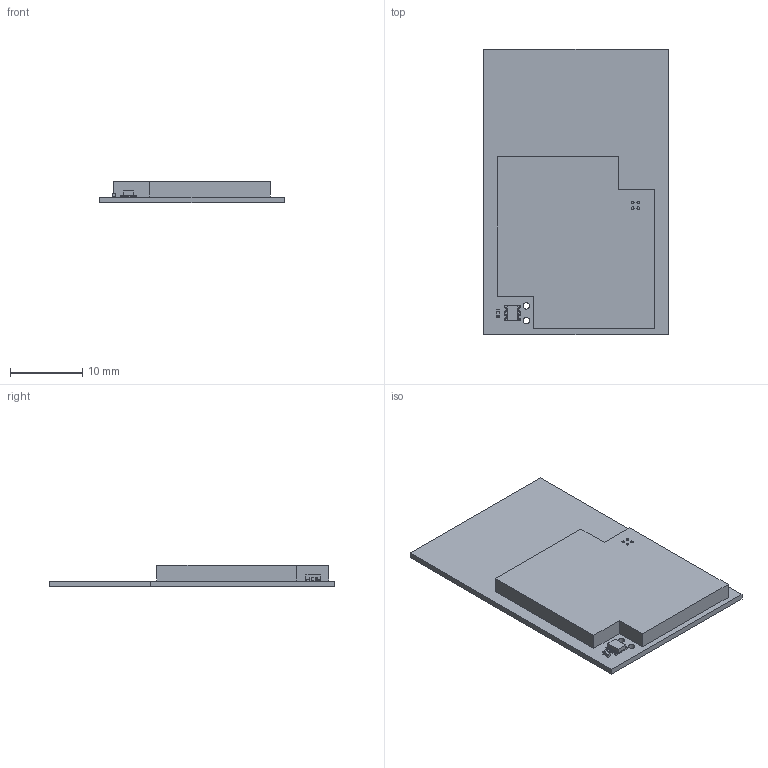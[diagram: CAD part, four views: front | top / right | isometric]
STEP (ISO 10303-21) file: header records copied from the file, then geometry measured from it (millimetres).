
FILE_DESCRIPTION(('Open CASCADE Model'),'2;1');
FILE_NAME('Open CASCADE Shape Model','2026-07-03T08:47:58',('Author'),( 'Open CASCADE'),'Open CASCADE STEP processor 6.8','Open CASCADE 6.8' ,'Unknown');
FILE_SCHEMA(('AUTOMOTIVE_DESIGN { 1 0 10303 214 1 1 1 1 }'));
Length unit declared in the file: millimetre
Products named in the file (75): PCB; Board; U6; 1479806224; Extruded; U5; PTX100RDQ56D13; U3; 1444434800; TVS1; SOD-323; R23; 1438780632; R22; 1442728112; R20; User_Library-Chip_Resistor2; R14; R13; FB9; User_Library-Chip_Inductor_(1); FB8; FB7; FB6; C71; cap_0402; C70; C69; C68; C66; 08055C105MAT2A; C64; C61; C59; C56; C54; C52; C51; C45; C43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
Assembly tree (114 placements, depth 4):
  PCB
    Board
    U6
      1479806224
        Extruded
    U5
      PTX100RDQ56D13
    U3
      1444434800
        Extruded
    TVS1
      SOD-323
    R23
      1438780632
    R22
      1442728112
    R20
      User_Library-Chip_Resistor2
    R14
      User_Library-Chip_Resistor2
    R13
      User_Library-Chip_Resistor2
    FB9
      User_Library-Chip_Inductor_(1)
    FB8
      User_Library-Chip_Inductor_(1)
    FB7
      User_Library-Chip_Inductor_(1)
    FB6
      User_Library-Chip_Inductor_(1)
    C71
      cap_0402
    C70
      cap_0402
    C69
      cap_0402
    C68
      cap_0402
    C66
      08055C105MAT2A
    C64
      08055C105MAT2A
    C61
      08055C105MAT2A
    C59
      08055C105MAT2A
    C56
      08055C105MAT2A
    C54
      08055C105MAT2A
    C52
      08055C105MAT2A
    C51
      08055C105MAT2A
    C45
      cap_0402
    C43
      cap_0402
    C42
      cap_0402
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Bounding box: 25.4 x 39.4 x 3 mm (x, y, z)
Volume: 1059.2 mm3; surface area: 4196.2 mm2
Topology: 146 solids, 146 shells, 3118 faces, 7298 edges, 4184 vertices
Faces by surface type: plane 1522, cylinder 1103, sphere 368, bspline 121, torus 4
Full cylindrical faces by diameter (mm): 0.4 x4, 0.889 x2
Entity records: 50907 total; most frequent: CARTESIAN_POINT 11580, ORIENTED_EDGE 6192, DIRECTION 6139, EDGE_CURVE 3096, LINE 2333, VECTOR 2333, VERTEX_POINT 1984, AXIS2_PLACEMENT_3D 1903
